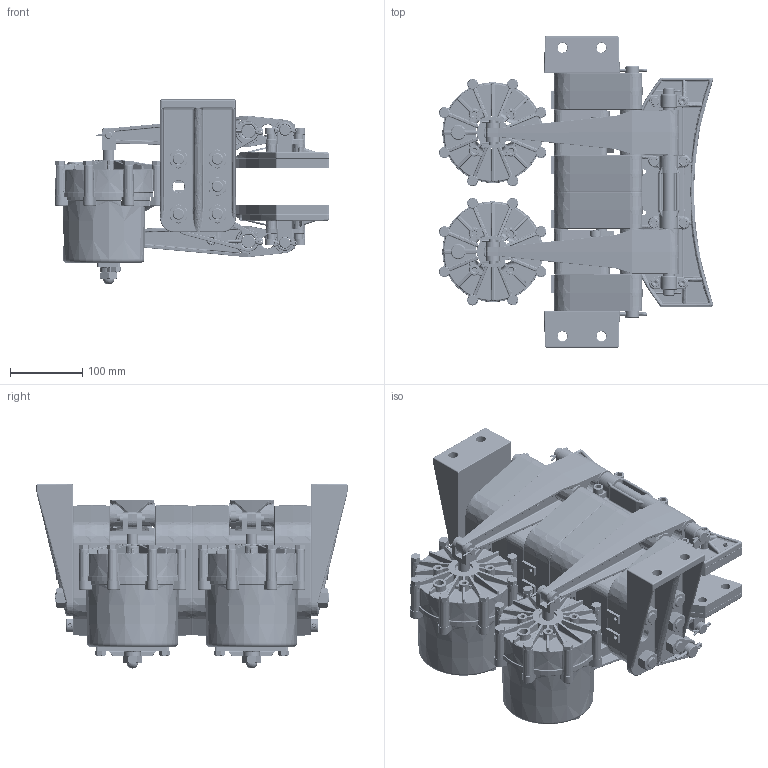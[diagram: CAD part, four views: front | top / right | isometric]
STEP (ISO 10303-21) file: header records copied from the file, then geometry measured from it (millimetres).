
FILE_DESCRIPTION (( 'STEP AP214' ), '1' );
FILE_NAME ('5022-SAW-LH.STEP', '2016-06-02T17:27:50', ( 'User' ), ( 'Microsoft' ), 'SwSTEP 2.0', 'SolidWorks 2015', '' );
FILE_SCHEMA (( 'AUTOMOTIVE_DESIGN' ));
Length unit declared in the file: inch
Products named in the file (1): 5022-SAW-LH
Bounding box: 380.38 x 431.47 x 256.58 mm (x, y, z)
Surface area: 1230554.1 mm2 (no closed solid volume)
Topology: 0 solids, 197 shells, 5203 faces, 17182 edges, 11537 vertices
Faces by surface type: cylinder 1451, plane 1302, cone 864, bspline 851, torus 688, sphere 47
Entity records: 343219 total; most frequent: CARTESIAN_POINT 142706, ORIENTED_EDGE 26785, DIRECTION 25569, EDGE_CURVE 17081, VERTEX_POINT 11537, AXIS2_PLACEMENT_3D 10245, CIRCLE 5892, EDGE_LOOP 5660
